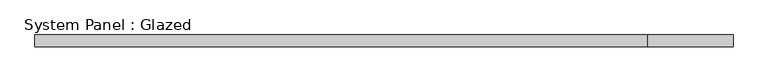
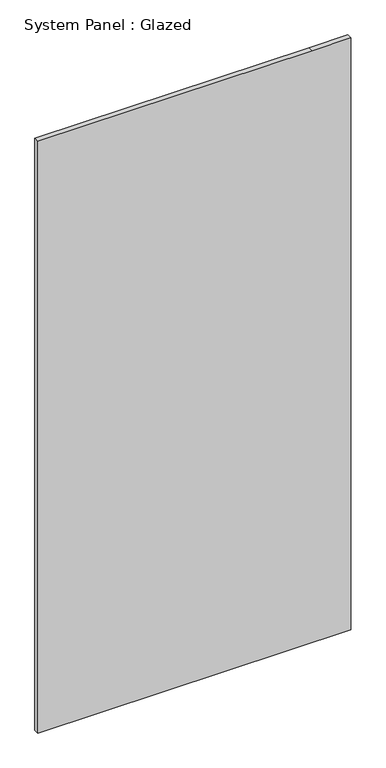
"""IFC4 building model written with IfcOpenShell, lengths in millimetres: plate geometry, System Panel : Glazed."""

from ifc_helpers import new_model, si_unit, frame, origin, place, context, project, spatial, polyline, outline, extrude, source, transform, mapped, element, save


def system_panel_glazed_9cc7ea48(model_context):
    return source(origin(), model_context, "Body", "SweptSolid", [
        extrude(outline(polyline([(0.0, -762.0), (0.0, 762.0), (3048.0, 762.0), (3048.0, 576.018691), (3048.0, -762.0), (0.0, -762.0)])), frame((0.0, -44.45, 0.0), z_axis=(0.0, 1.0, 0.0), x_axis=(0.0, 0.0, 1.0)), (0.0, 0.0, 1.0), 25.4),
    ])


if __name__ == "__main__":
    model = new_model("IFC4")
    model_context = context("Model", 3, world=origin())
    ifc_project = project(units=[si_unit("LENGTHUNIT", "METRE", prefix="MILLI")], contexts=[model_context])
    site = spatial("IfcSite", under=ifc_project)
    building = spatial("IfcBuilding", under=site)
    placement = place(None, origin())
    system_panel_glazed_shape = system_panel_glazed_9cc7ea48(model_context)
    element("IfcPlate", 1, ObjectType="System Panel : Glazed", at=placement, inside=building, context=model_context, shape_type="MappedRepresentation", body=[
        mapped(system_panel_glazed_shape, transform((0.0, 0.0, 0.0), x_axis=(1.0, 0.0, 0.0), y_axis=(0.0, 1.0, 0.0), z_axis=(0.0, 0.0, 1.0))),
    ])
    save(model, "model.ifc")
